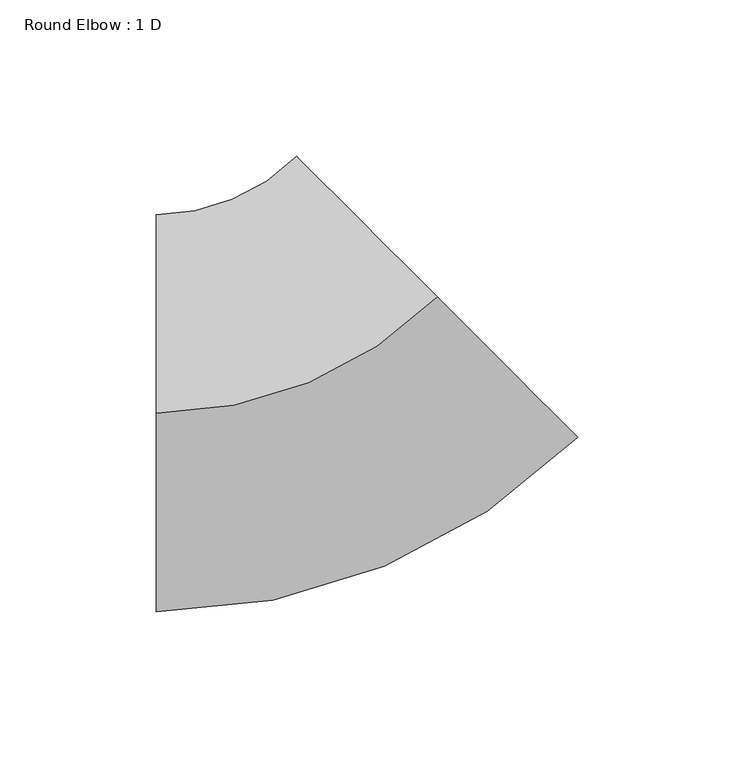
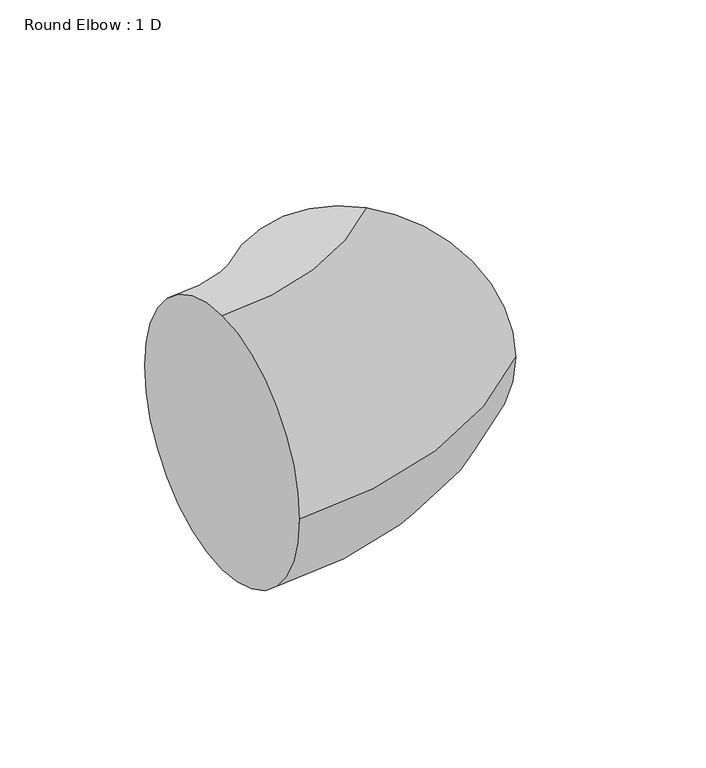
"""IFC4 building model written with IfcOpenShell, lengths in millimetres: duct fitting geometry, Round Elbow : 1 D."""

from ifc_helpers import new_model, si_unit, point, frame, origin, place, context, project, spatial, circle_curve, ellipse_curve, trimmed, source, transform, mapped, element, save
from ifc_brep_helpers import plane_surface, revolved_surface, advanced_brep


def round_elbow_1_d_42c0595d(model_context):
    return source(origin(), model_context, "Body", "AdvancedBrep", [
        advanced_brep(
        [(-52.6051682, 0.0, 63.5), (-52.6051682, 63.5, 0.0), (-52.6051682, 0.0, -63.5), (-52.6051682, -63.5, 0.0), (37.1974483, 37.1974941, 63.5), (82.0987565, -7.7037589, 0.0), (37.1974483, 37.1974941, -63.5), (-7.70386, 82.098747, 0.0)],
        [
            (0, 1, circle_curve(frame((-52.6051682, 0.0, 0.0), z_axis=(-1.0, 0.0, 0.0), x_axis=(0.0, 1.0, 0.0)), 63.5)),
            (1, 2, circle_curve(frame((-52.6051682, 0.0, 0.0), z_axis=(-1.0, 0.0, 0.0), x_axis=(0.0, 1.0, 0.0)), 63.5)),
            (2, 3, circle_curve(frame((-52.6051682, 0.0, 0.0), z_axis=(-1.0, 0.0, 0.0), x_axis=(0.0, 1.0, 0.0)), 63.5)),
            (3, 0, circle_curve(frame((-52.6051682, 0.0, 0.0), z_axis=(-1.0, 0.0, 0.0), x_axis=(0.0, 1.0, 0.0)), 63.5)),
            (4, 5, circle_curve(frame((37.1974483, 37.1974941, 0.0), z_axis=(0.7071063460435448, 0.7071072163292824, 0.0), x_axis=(-0.7071072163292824, 0.7071063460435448, 0.0)), 63.5)),
            (5, 6, circle_curve(frame((37.1974483, 37.1974941, 0.0), z_axis=(0.7071063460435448, 0.7071072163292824, 0.0), x_axis=(-0.7071072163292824, 0.7071063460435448, 0.0)), 63.5)),
            (6, 7, circle_curve(frame((37.1974483, 37.1974941, 0.0), z_axis=(0.7071063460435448, 0.7071072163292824, 0.0), x_axis=(-0.7071072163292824, 0.7071063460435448, 0.0)), 63.5)),
            (7, 4, circle_curve(frame((37.1974483, 37.1974941, 0.0), z_axis=(0.7071063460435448, 0.7071072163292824, 0.0), x_axis=(-0.7071072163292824, 0.7071063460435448, 0.0)), 63.5)),
            (7, 1, circle_curve(frame((-52.6051682, 127.0, 0.0), z_axis=(0.0, 0.0, -1.0), x_axis=(0.0, -1.0, 0.0)), 63.5)),
            (0, 4, circle_curve(frame((-52.6051682, 127.0, 63.5), z_axis=(0.0, 0.0, 1.0), x_axis=(0.0, -1.0, 0.0)), 127.0)),
            (6, 2, circle_curve(frame((-52.6051682, 127.0, -63.5), z_axis=(0.0, 0.0, -1.0), x_axis=(0.0, -1.0, 0.0)), 127.0)),
            (5, 3, circle_curve(frame((-52.6051682, 127.0, 0.0), z_axis=(0.0, 0.0, -1.0), x_axis=(0.0, -1.0, 0.0)), 190.5)),
        ],
        [
            plane_surface(frame((-52.6051682, 0.0, 0.0), z_axis=(-1.0, 0.0, 0.0), x_axis=(0.0, 0.0, 1.0))),
            plane_surface(frame((37.1974483, 37.1974941, 0.0), z_axis=(0.7071063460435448, 0.7071072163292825, 0.0), x_axis=(0.0, 0.0, 1.0))),
            revolved_surface(trimmed(ellipse_curve(frame((-52.6051682, 0.0, 0.0), z_axis=(-1.0, 0.0, 0.0), x_axis=(0.0, 1.0, 0.0)), 63.5, 63.5), [point((-52.6051682, 0.0, 63.5))], [point((-52.6051682, 63.5, 0.0))], True, "CARTESIAN"), (-52.6051682, 127.0, 0.0), (0.0, 0.0, 1.0)),
            revolved_surface(trimmed(ellipse_curve(frame((-52.6051682, 0.0, 0.0), z_axis=(-1.0, 0.0, 0.0), x_axis=(0.0, 1.0, 0.0)), 63.5, 63.5), [point((-52.6051682, 63.5, 0.0))], [point((-52.6051682, 0.0, -63.5))], True, "CARTESIAN"), (-52.6051682, 127.0, 0.0), (0.0, 0.0, 1.0)),
            revolved_surface(trimmed(ellipse_curve(frame((-52.6051682, 0.0, 0.0), z_axis=(-1.0, 0.0, 0.0), x_axis=(0.0, 1.0, 0.0)), 63.5, 63.5), [point((-52.6051682, 0.0, -63.5))], [point((-52.6051682, -63.5, 0.0))], True, "CARTESIAN"), (-52.6051682, 127.0, 0.0), (0.0, 0.0, 1.0)),
            revolved_surface(trimmed(ellipse_curve(frame((-52.6051682, 0.0, 0.0), z_axis=(-1.0, 0.0, 0.0), x_axis=(0.0, 1.0, 0.0)), 63.5, 63.5), [point((-52.6051682, -63.5, 0.0))], [point((-52.6051682, 0.0, 63.5))], True, "CARTESIAN"), (-52.6051682, 127.0, 0.0), (0.0, 0.0, 1.0)),
        ],
        [
            (0, [[1, 2, 3, 4]]),
            (1, [[5, 6, 7, 8]]),
            (2, [[9, -1, 10, -8]]),
            (3, [[11, -2, -9, -7]]),
            (4, [[12, -3, -11, -6]]),
            (5, [[-10, -4, -12, -5]]),
        ],
    ),
    ])


if __name__ == "__main__":
    model = new_model("IFC4")
    model_context = context("Model", 3, world=origin())
    ifc_project = project(units=[si_unit("LENGTHUNIT", "METRE", prefix="MILLI")], contexts=[model_context])
    site = spatial("IfcSite", under=ifc_project)
    building = spatial("IfcBuilding", under=site)
    placement = place(None, origin())
    round_elbow_1_d_shape = round_elbow_1_d_42c0595d(model_context)
    element("IfcDuctFitting", 1, ObjectType="Round Elbow : 1 D", at=placement, inside=building, context=model_context, shape_type="MappedRepresentation", body=[
        mapped(round_elbow_1_d_shape, transform((0.0, 0.0, 0.0), x_axis=(1.0, 0.0, 0.0), y_axis=(0.0, 1.0, 0.0), z_axis=(0.0, 0.0, 1.0))),
    ])
    save(model, "model.ifc")
